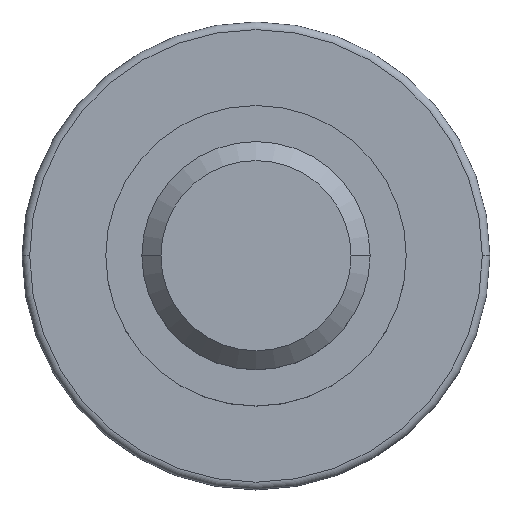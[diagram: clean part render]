
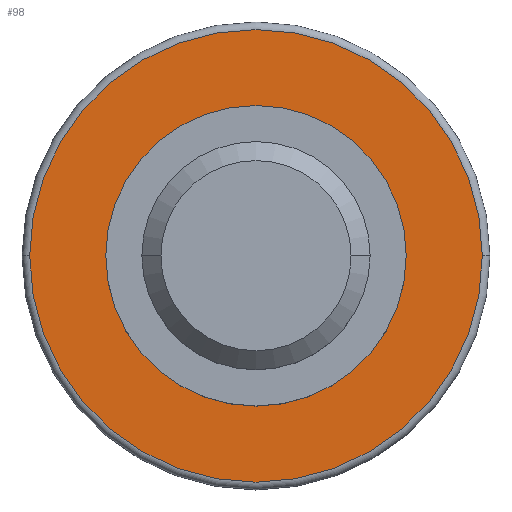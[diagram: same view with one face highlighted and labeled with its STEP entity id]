
A CAD part, top view. The second image highlights one B-rep face of the part: STEP entity #98.
In plain terms, the highlighted planar face has unit normal (0, 0, 1).
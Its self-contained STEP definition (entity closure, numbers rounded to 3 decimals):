
#5 = CARTESIAN_POINT ( 'NONE',  ( 59.5, 0., -33.3 ) ) ;
#6 = ORIENTED_EDGE ( 'NONE', *, *, #30, .T. ) ;
#7 = CARTESIAN_POINT ( 'NONE',  ( 0., 0., -33.3 ) ) ;
#12 = CIRCLE ( 'NONE', #15, 39.5 ) ;
#15 = AXIS2_PLACEMENT_3D ( 'NONE', #571, #248, #377 ) ;
#21 = ORIENTED_EDGE ( 'NONE', *, *, #34, .T. ) ;
#30 = EDGE_CURVE ( 'NONE', #338, #258, #12, .T. ) ;
#31 = DIRECTION ( 'NONE',  ( 0., 0., -1. ) ) ;
#34 = EDGE_CURVE ( 'NONE', #583, #389, #264, .T. ) ;
#38 = DIRECTION ( 'NONE',  ( 0., 0., 1. ) ) ;
#46 = AXIS2_PLACEMENT_3D ( 'NONE', #435, #38, #546 ) ;
#47 = PLANE ( 'NONE',  #386 ) ;
#98 = ADVANCED_FACE ( 'NONE', ( #471, #343 ), #47, .F. ) ;
#133 = AXIS2_PLACEMENT_3D ( 'NONE', #393, #565, #401 ) ;
#195 = DIRECTION ( 'NONE',  ( 0., 0., -1. ) ) ;
#224 = CARTESIAN_POINT ( 'NONE',  ( -59.5, 0., -33.3 ) ) ;
#248 = DIRECTION ( 'NONE',  ( 0., 0., -1. ) ) ;
#258 = VERTEX_POINT ( 'NONE', #385 ) ;
#264 = CIRCLE ( 'NONE', #46, 59.5 ) ;
#293 = ORIENTED_EDGE ( 'NONE', *, *, #428, .T. ) ;
#322 = CARTESIAN_POINT ( 'NONE',  ( 39.5, 0., -33.3 ) ) ;
#337 = CIRCLE ( 'NONE', #531, 39.5 ) ;
#338 = VERTEX_POINT ( 'NONE', #322 ) ;
#341 = CARTESIAN_POINT ( 'NONE',  ( 0., 0., -33.3 ) ) ;
#343 = FACE_BOUND ( 'NONE', #573, .T. ) ;
#377 = DIRECTION ( 'NONE',  ( -1., 0., 0. ) ) ;
#385 = CARTESIAN_POINT ( 'NONE',  ( -39.5, 0., -33.3 ) ) ;
#386 = AXIS2_PLACEMENT_3D ( 'NONE', #7, #195, #427 ) ;
#389 = VERTEX_POINT ( 'NONE', #224 ) ;
#393 = CARTESIAN_POINT ( 'NONE',  ( 0., 0., -33.3 ) ) ;
#401 = DIRECTION ( 'NONE',  ( -1., 0., 0. ) ) ;
#402 = EDGE_LOOP ( 'NONE', ( #555, #21 ) ) ;
#413 = CIRCLE ( 'NONE', #133, 59.5 ) ;
#427 = DIRECTION ( 'NONE',  ( -1., 0., 0. ) ) ;
#428 = EDGE_CURVE ( 'NONE', #258, #338, #337, .T. ) ;
#435 = CARTESIAN_POINT ( 'NONE',  ( 0., 0., -33.3 ) ) ;
#465 = DIRECTION ( 'NONE',  ( -1., 0., 0. ) ) ;
#471 = FACE_OUTER_BOUND ( 'NONE', #402, .T. ) ;
#531 = AXIS2_PLACEMENT_3D ( 'NONE', #341, #31, #465 ) ;
#546 = DIRECTION ( 'NONE',  ( -1., 0., 0. ) ) ;
#555 = ORIENTED_EDGE ( 'NONE', *, *, #581, .T. ) ;
#565 = DIRECTION ( 'NONE',  ( 0., 0., 1. ) ) ;
#571 = CARTESIAN_POINT ( 'NONE',  ( 0., 0., -33.3 ) ) ;
#573 = EDGE_LOOP ( 'NONE', ( #6, #293 ) ) ;
#581 = EDGE_CURVE ( 'NONE', #389, #583, #413, .T. ) ;
#583 = VERTEX_POINT ( 'NONE', #5 ) ;
